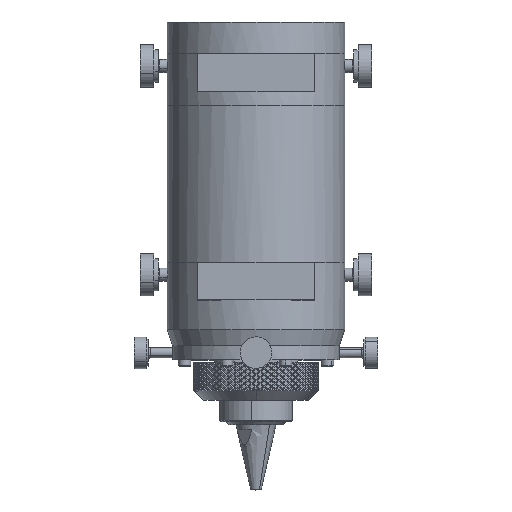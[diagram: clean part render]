
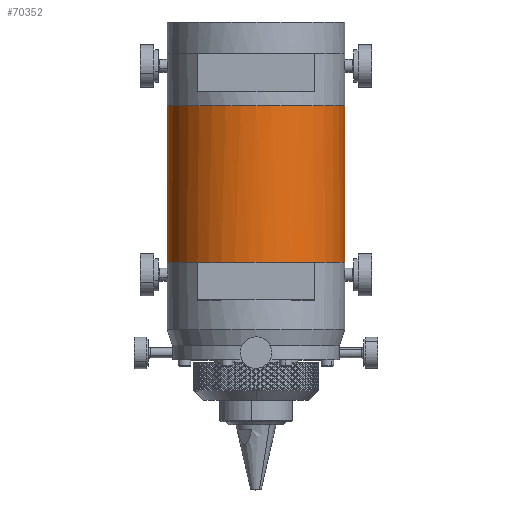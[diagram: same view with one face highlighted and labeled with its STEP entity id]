
A CAD part, top view. The second image highlights one B-rep face of the part: STEP entity #70352.
In plain terms, the highlighted cylindrical face has radius 26.988 mm (diameter 53.975 mm), a partial arc.
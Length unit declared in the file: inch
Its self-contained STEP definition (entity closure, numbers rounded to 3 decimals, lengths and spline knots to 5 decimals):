
#804 = EDGE_CURVE ( 'NONE', #50430, #40151, #16085, .T. ) ;
#2574 = AXIS2_PLACEMENT_3D ( 'NONE', #26013, #47882, #68738 ) ;
#3712 = CIRCLE ( 'NONE', #87971, 1.0625 ) ;
#7001 = AXIS2_PLACEMENT_3D ( 'NONE', #67730, #68035, #39373 ) ;
#9450 = ORIENTED_EDGE ( 'NONE', *, *, #36047, .T. ) ;
#12940 = LINE ( 'NONE', #60043, #27415 ) ;
#15849 = CARTESIAN_POINT ( 'NONE',  ( 0.701, 1., 0.79844 ) ) ;
#16085 = CIRCLE ( 'NONE', #7001, 1.0625 ) ;
#18764 = CARTESIAN_POINT ( 'NONE',  ( 1.0625, 2.875, 0. ) ) ;
#20509 = ORIENTED_EDGE ( 'NONE', *, *, #73385, .T. ) ;
#21374 = CARTESIAN_POINT ( 'NONE',  ( 1.0625, 1., 0. ) ) ;
#25796 = AXIS2_PLACEMENT_3D ( 'NONE', #34384, #90825, #33139 ) ;
#26013 = CARTESIAN_POINT ( 'NONE',  ( 0., 1., 0. ) ) ;
#27044 = CARTESIAN_POINT ( 'NONE',  ( 0., 1., 0. ) ) ;
#27246 = ORIENTED_EDGE ( 'NONE', *, *, #55254, .T. ) ;
#27415 = VECTOR ( 'NONE', #39749, 39.37008 ) ;
#32986 = CARTESIAN_POINT ( 'NONE',  ( 1.0625, 2.875, 0. ) ) ;
#33139 = DIRECTION ( 'NONE',  ( 1., 0., 0. ) ) ;
#34190 = DIRECTION ( 'NONE',  ( 0., -1., 0. ) ) ;
#34252 = DIRECTION ( 'NONE',  ( 1., 0., 0. ) ) ;
#34384 = CARTESIAN_POINT ( 'NONE',  ( 0., 2.875, 0. ) ) ;
#34887 = DIRECTION ( 'NONE',  ( 0., 1., 0. ) ) ;
#36047 = EDGE_CURVE ( 'NONE', #83420, #72417, #12940, .T. ) ;
#36546 = CIRCLE ( 'NONE', #25796, 1.0625 ) ;
#39373 = DIRECTION ( 'NONE',  ( 1., 0., 0. ) ) ;
#39749 = DIRECTION ( 'NONE',  ( 0., -1., 0. ) ) ;
#40151 = VERTEX_POINT ( 'NONE', #15849 ) ;
#41365 = DIRECTION ( 'NONE',  ( -1., 0., 0. ) ) ;
#46980 = VERTEX_POINT ( 'NONE', #32986 ) ;
#47630 = EDGE_LOOP ( 'NONE', ( #88980, #65055, #9450, #27246, #76509, #20509 ) ) ;
#47882 = DIRECTION ( 'NONE',  ( 0., 1., 0. ) ) ;
#50430 = VERTEX_POINT ( 'NONE', #58195 ) ;
#54173 = LINE ( 'NONE', #18764, #84258 ) ;
#55254 = EDGE_CURVE ( 'NONE', #72417, #50430, #3712, .T. ) ;
#58195 = CARTESIAN_POINT ( 'NONE',  ( -0.701, 1., 0.79844 ) ) ;
#59128 = CYLINDRICAL_SURFACE ( 'NONE', #62032, 1.0625 ) ;
#60043 = CARTESIAN_POINT ( 'NONE',  ( -1.0625, 2.875, 0. ) ) ;
#61806 = DIRECTION ( 'NONE',  ( 0., -1., 0. ) ) ;
#62032 = AXIS2_PLACEMENT_3D ( 'NONE', #69711, #34190, #41365 ) ;
#65055 = ORIENTED_EDGE ( 'NONE', *, *, #87441, .F. ) ;
#65849 = FACE_OUTER_BOUND ( 'NONE', #47630, .T. ) ;
#67501 = CARTESIAN_POINT ( 'NONE',  ( -1.0625, 2.875, 0. ) ) ;
#67730 = CARTESIAN_POINT ( 'NONE',  ( 0., 1., 0. ) ) ;
#68035 = DIRECTION ( 'NONE',  ( 0., 1., 0. ) ) ;
#68738 = DIRECTION ( 'NONE',  ( 1., 0., 0. ) ) ;
#69711 = CARTESIAN_POINT ( 'NONE',  ( 0., 2.875, 0. ) ) ;
#70352 = ADVANCED_FACE ( 'NONE', ( #65849 ), #59128, .T. ) ;
#72417 = VERTEX_POINT ( 'NONE', #82148 ) ;
#73385 = EDGE_CURVE ( 'NONE', #40151, #81318, #81067, .T. ) ;
#76509 = ORIENTED_EDGE ( 'NONE', *, *, #804, .T. ) ;
#81067 = CIRCLE ( 'NONE', #2574, 1.0625 ) ;
#81318 = VERTEX_POINT ( 'NONE', #21374 ) ;
#82148 = CARTESIAN_POINT ( 'NONE',  ( -1.0625, 1., 0. ) ) ;
#83420 = VERTEX_POINT ( 'NONE', #67501 ) ;
#84258 = VECTOR ( 'NONE', #61806, 39.37008 ) ;
#87441 = EDGE_CURVE ( 'NONE', #83420, #46980, #36546, .T. ) ;
#87971 = AXIS2_PLACEMENT_3D ( 'NONE', #27044, #34887, #34252 ) ;
#88950 = EDGE_CURVE ( 'NONE', #46980, #81318, #54173, .T. ) ;
#88980 = ORIENTED_EDGE ( 'NONE', *, *, #88950, .F. ) ;
#90825 = DIRECTION ( 'NONE',  ( 0., 1., 0. ) ) ;
